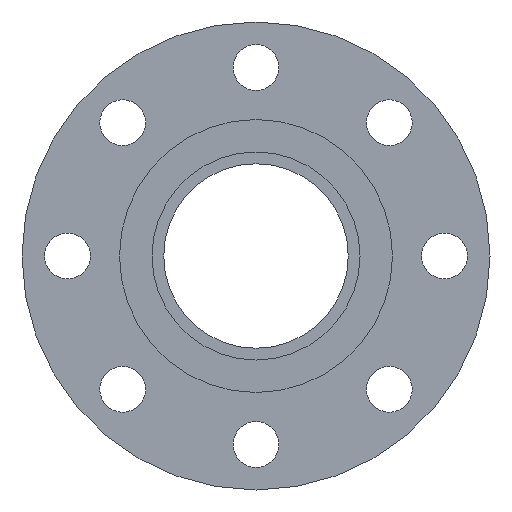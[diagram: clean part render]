
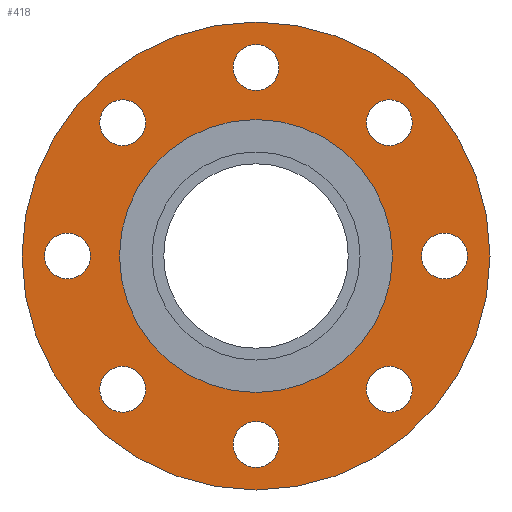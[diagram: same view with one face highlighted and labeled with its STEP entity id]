
A CAD part, left-side view. The second image highlights one B-rep face of the part: STEP entity #418.
In plain terms, the highlighted planar face has unit normal (-1, 0, 0).
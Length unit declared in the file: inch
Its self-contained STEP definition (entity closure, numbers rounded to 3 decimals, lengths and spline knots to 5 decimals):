
#14=FACE_BOUND('',#72,.T.);
#15=FACE_BOUND('',#73,.T.);
#16=FACE_BOUND('',#74,.T.);
#17=FACE_BOUND('',#75,.T.);
#18=FACE_BOUND('',#76,.T.);
#19=FACE_BOUND('',#77,.T.);
#20=FACE_BOUND('',#78,.T.);
#21=FACE_BOUND('',#79,.T.);
#22=FACE_BOUND('',#80,.T.);
#36=PLANE('',#478);
#51=FACE_OUTER_BOUND('',#71,.T.);
#71=EDGE_LOOP('',(#304,#305));
#72=EDGE_LOOP('',(#306));
#73=EDGE_LOOP('',(#307));
#74=EDGE_LOOP('',(#308));
#75=EDGE_LOOP('',(#309));
#76=EDGE_LOOP('',(#310));
#77=EDGE_LOOP('',(#311));
#78=EDGE_LOOP('',(#312));
#79=EDGE_LOOP('',(#313));
#80=EDGE_LOOP('',(#314,#315));
#133=CIRCLE('',#451,0.44);
#135=CIRCLE('',#454,0.44);
#137=CIRCLE('',#457,0.44);
#139=CIRCLE('',#460,0.44);
#141=CIRCLE('',#463,0.44);
#143=CIRCLE('',#466,0.44);
#145=CIRCLE('',#469,0.44);
#147=CIRCLE('',#472,0.44);
#148=CIRCLE('',#474,4.5);
#149=CIRCLE('',#475,4.5);
#152=CIRCLE('',#479,2.625);
#153=CIRCLE('',#480,2.625);
#173=VERTEX_POINT('',#649);
#175=VERTEX_POINT('',#655);
#177=VERTEX_POINT('',#661);
#179=VERTEX_POINT('',#667);
#181=VERTEX_POINT('',#673);
#183=VERTEX_POINT('',#679);
#185=VERTEX_POINT('',#685);
#187=VERTEX_POINT('',#691);
#188=VERTEX_POINT('',#695);
#189=VERTEX_POINT('',#696);
#192=VERTEX_POINT('',#705);
#193=VERTEX_POINT('',#706);
#214=EDGE_CURVE('',#173,#173,#133,.T.);
#217=EDGE_CURVE('',#175,#175,#135,.T.);
#220=EDGE_CURVE('',#177,#177,#137,.T.);
#223=EDGE_CURVE('',#179,#179,#139,.T.);
#226=EDGE_CURVE('',#181,#181,#141,.T.);
#229=EDGE_CURVE('',#183,#183,#143,.T.);
#232=EDGE_CURVE('',#185,#185,#145,.T.);
#235=EDGE_CURVE('',#187,#187,#147,.T.);
#236=EDGE_CURVE('',#188,#189,#148,.T.);
#237=EDGE_CURVE('',#189,#188,#149,.T.);
#241=EDGE_CURVE('',#192,#193,#152,.T.);
#242=EDGE_CURVE('',#193,#192,#153,.T.);
#304=ORIENTED_EDGE('',*,*,#236,.T.);
#305=ORIENTED_EDGE('',*,*,#237,.T.);
#306=ORIENTED_EDGE('',*,*,#214,.T.);
#307=ORIENTED_EDGE('',*,*,#217,.T.);
#308=ORIENTED_EDGE('',*,*,#220,.T.);
#309=ORIENTED_EDGE('',*,*,#223,.T.);
#310=ORIENTED_EDGE('',*,*,#226,.T.);
#311=ORIENTED_EDGE('',*,*,#229,.T.);
#312=ORIENTED_EDGE('',*,*,#232,.T.);
#313=ORIENTED_EDGE('',*,*,#235,.T.);
#314=ORIENTED_EDGE('',*,*,#241,.F.);
#315=ORIENTED_EDGE('',*,*,#242,.F.);
#418=ADVANCED_FACE('',(#51,#14,#15,#16,#17,#18,#19,#20,#21,#22),#36,.T.);
#451=AXIS2_PLACEMENT_3D('',#651,#516,#517);
#454=AXIS2_PLACEMENT_3D('',#657,#523,#524);
#457=AXIS2_PLACEMENT_3D('',#663,#530,#531);
#460=AXIS2_PLACEMENT_3D('',#669,#537,#538);
#463=AXIS2_PLACEMENT_3D('',#675,#544,#545);
#466=AXIS2_PLACEMENT_3D('',#681,#551,#552);
#469=AXIS2_PLACEMENT_3D('',#687,#558,#559);
#472=AXIS2_PLACEMENT_3D('',#693,#565,#566);
#474=AXIS2_PLACEMENT_3D('',#697,#569,#570);
#475=AXIS2_PLACEMENT_3D('',#698,#571,#572);
#478=AXIS2_PLACEMENT_3D('',#704,#578,#579);
#479=AXIS2_PLACEMENT_3D('',#707,#580,#581);
#480=AXIS2_PLACEMENT_3D('',#708,#582,#583);
#516=DIRECTION('center_axis',(1.,0.,0.));
#517=DIRECTION('ref_axis',(0.,-0.707,0.707));
#523=DIRECTION('center_axis',(1.,0.,0.));
#524=DIRECTION('ref_axis',(0.,-1.,0.));
#530=DIRECTION('center_axis',(1.,0.,0.));
#531=DIRECTION('ref_axis',(0.,-0.707,-0.707));
#537=DIRECTION('center_axis',(1.,0.,0.));
#538=DIRECTION('ref_axis',(0.,0.,-1.));
#544=DIRECTION('center_axis',(1.,0.,0.));
#545=DIRECTION('ref_axis',(0.,0.707,-0.707));
#551=DIRECTION('center_axis',(1.,0.,0.));
#552=DIRECTION('ref_axis',(0.,1.,0.));
#558=DIRECTION('center_axis',(1.,0.,0.));
#559=DIRECTION('ref_axis',(0.,0.707,0.707));
#565=DIRECTION('center_axis',(1.,0.,0.));
#566=DIRECTION('ref_axis',(0.,0.,1.));
#569=DIRECTION('center_axis',(-1.,0.,0.));
#570=DIRECTION('ref_axis',(0.,0.,1.));
#571=DIRECTION('center_axis',(-1.,0.,0.));
#572=DIRECTION('ref_axis',(0.,0.,1.));
#578=DIRECTION('center_axis',(-1.,0.,0.));
#579=DIRECTION('ref_axis',(0.,0.,1.));
#580=DIRECTION('center_axis',(-1.,0.,0.));
#581=DIRECTION('ref_axis',(0.,0.,1.));
#582=DIRECTION('center_axis',(-1.,0.,0.));
#583=DIRECTION('ref_axis',(0.,0.,1.));
#649=CARTESIAN_POINT('',(-1.19,2.87439,-2.87439));
#651=CARTESIAN_POINT('Origin',(-1.19,2.56326,-2.56326));
#655=CARTESIAN_POINT('',(-1.19,4.065,0.));
#657=CARTESIAN_POINT('Origin',(-1.19,3.625,0.));
#661=CARTESIAN_POINT('',(-1.19,2.87439,2.87439));
#663=CARTESIAN_POINT('Origin',(-1.19,2.56326,2.56326));
#667=CARTESIAN_POINT('',(-1.19,0.,4.065));
#669=CARTESIAN_POINT('Origin',(-1.19,0.,3.625));
#673=CARTESIAN_POINT('',(-1.19,-2.87439,2.87439));
#675=CARTESIAN_POINT('Origin',(-1.19,-2.56326,2.56326));
#679=CARTESIAN_POINT('',(-1.19,-4.065,0.));
#681=CARTESIAN_POINT('Origin',(-1.19,-3.625,0.));
#685=CARTESIAN_POINT('',(-1.19,-2.87439,-2.87439));
#687=CARTESIAN_POINT('Origin',(-1.19,-2.56326,-2.56326));
#691=CARTESIAN_POINT('',(-1.19,0.,-4.065));
#693=CARTESIAN_POINT('Origin',(-1.19,0.,-3.625));
#695=CARTESIAN_POINT('',(-1.19,0.,4.5));
#696=CARTESIAN_POINT('',(-1.19,0.,-4.5));
#697=CARTESIAN_POINT('Origin',(-1.19,0.,0.));
#698=CARTESIAN_POINT('Origin',(-1.19,0.,0.));
#704=CARTESIAN_POINT('Origin',(-1.19,0.,3.5625));
#705=CARTESIAN_POINT('',(-1.19,0.,2.625));
#706=CARTESIAN_POINT('',(-1.19,0.,-2.625));
#707=CARTESIAN_POINT('Origin',(-1.19,0.,0.));
#708=CARTESIAN_POINT('Origin',(-1.19,0.,0.));
